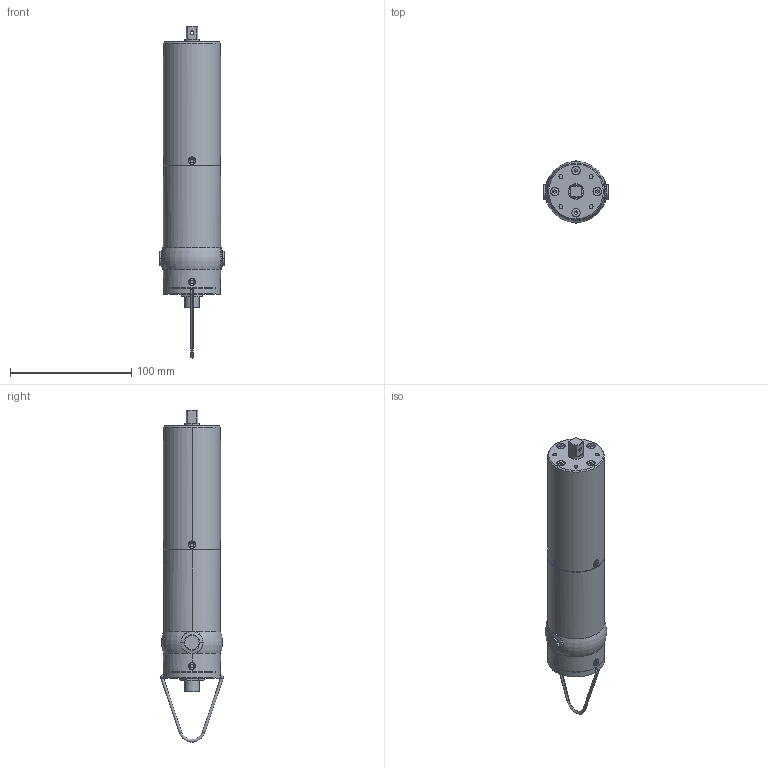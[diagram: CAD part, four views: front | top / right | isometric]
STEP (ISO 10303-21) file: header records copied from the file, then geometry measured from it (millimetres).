
FILE_DESCRIPTION (( 'STEP AP214' ), '1' );
FILE_NAME ('Pluto 20CA-&-TA.STEP', '2024-05-17T13:09:26', ( '' ), ( '' ), 'SwSTEP 2.0', 'SolidWorks 2024', '' );
FILE_SCHEMA (( 'AUTOMOTIVE_DESIGN' ));
Length unit declared in the file: millimetre
Products named in the file (1): Pluto 20CA-&-TA
Bounding box: 53 x 51.62 x 273.66 mm (x, y, z)
Surface area: 39296.1 mm2 (no closed solid volume)
Topology: 0 solids, 27 shells, 352 faces, 952 edges, 612 vertices
Faces by surface type: cylinder 190, plane 94, cone 50, torus 18
Entity records: 15820 total; most frequent: CARTESIAN_POINT 2879, DIRECTION 2090, ORIENTED_EDGE 1728, EDGE_CURVE 944, AXIS2_PLACEMENT_3D 863, VERTEX_POINT 612, CIRCLE 510, EDGE_LOOP 389
